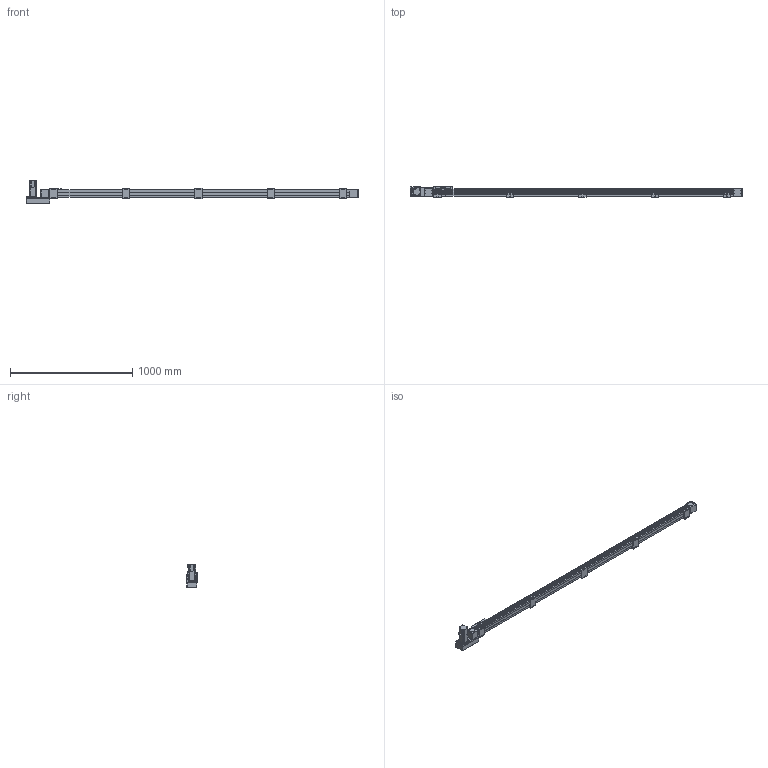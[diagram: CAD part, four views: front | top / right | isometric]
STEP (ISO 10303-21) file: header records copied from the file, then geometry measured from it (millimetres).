
FILE_DESCRIPTION(/* description */ ('STEP AP214'),/* implementation_level */ '2;1');
FILE_NAME(/* name */ 'SK60-P13-S2300-L-T40-C1-N(0)',/* time_stamp */ '2023-04-06T04:11:56+02:00',/* author */ ('License CC BY-ND 4.0'),/* organization */ ('CADENAS'),/* preprocessor_version */ 'ST-DEVELOPER v19.3',/* originating_system */ 'PARTsolutions',/* authorisation */ ' ');
FILE_SCHEMA (('AUTOMOTIVE_DESIGN {1 0 10303 214 3 1 1}'));
Length unit declared in the file: millimetre
Products named in the file (10): SK60-P13-S2300-L-T40-C1-N(0); PSC140-sensor; SK60-S450_seat; SK60-S450-BL-C1_slider; SK60_body3; SK60_body6; SK60-BL_body2; T40-p1; SK60-L_fb; SK60-S2300-L-C1_body
Assembly tree (19 placements, depth 2):
  SK60-P13-S2300-L-T40-C1-N(0)
    PSC140-sensor  x3
    SK60-S450_seat  x5
    SK60-S450-BL-C1_slider
    SK60_body3  x3
    SK60_body6  x2
    SK60-BL_body2  x2
    T40-p1
    SK60-L_fb
    SK60-S2300-L-C1_body
Bounding box: 2720.5 x 90 x 189.7 mm (x, y, z)
Volume: 10041466.2 mm3; surface area: 1190005.6 mm2
Topology: 19 solids, 19 shells, 942 faces, 2342 edges, 1541 vertices
Faces by surface type: plane 596, cylinder 310, cone 34, torus 2
Full cylindrical faces by diameter (mm): 2.8 x3, 3.3 x4, 4 x2, 4.5 x30, 4.6 x3, 4.917 x28, 5 x6, 5.478 x4, 5.5 x31, 6.5 x10, 7 x2, 8 x4, 8.5 x4, 9.988 x4, 10 x20, 14 x1, 47 x3, 50 x2
Entity records: 18679 total; most frequent: DIRECTION 3190, CARTESIAN_POINT 3153, ORIENTED_EDGE 2940, EDGE_CURVE 1470, AXIS2_PLACEMENT_3D 1071, LINE 1048, VECTOR 1048, VERTEX_POINT 1034
